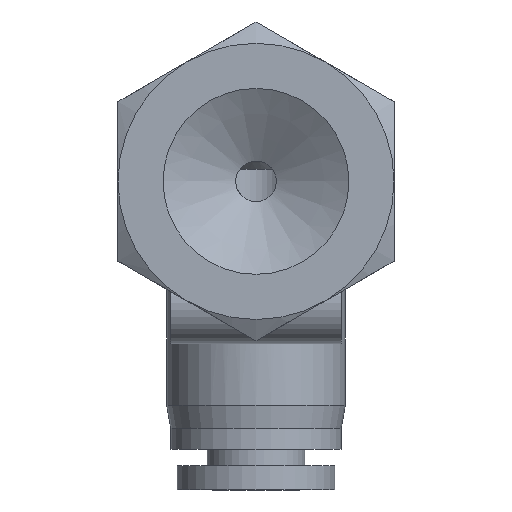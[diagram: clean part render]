
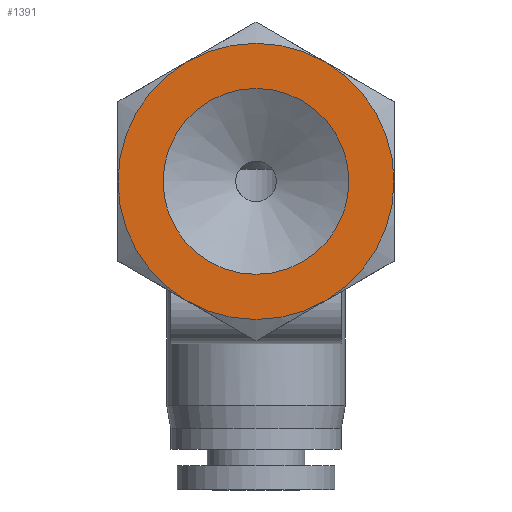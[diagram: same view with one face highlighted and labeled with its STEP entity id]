
A CAD part, front view. The second image highlights one B-rep face of the part: STEP entity #1391.
In plain terms, the highlighted planar face has unit normal (0, -1, 0).
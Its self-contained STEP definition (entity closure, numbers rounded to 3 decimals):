
#630=CARTESIAN_POINT('',(5.723,-26.6,0.));
#631=VERTEX_POINT('',#630);
#632=CARTESIAN_POINT('',(0.0,-26.6,0.));
#633=DIRECTION('',(0.0,1.0,0.0));
#634=DIRECTION('',(1.0,0.0,0.0));
#635=AXIS2_PLACEMENT_3D('',#632,#633,#634);
#636=CIRCLE('',#635,5.723);
#637=EDGE_CURVE('',#631,#631,#636,.T.);
#675=CARTESIAN_POINT('',(4.25,-26.6,7.361));
#676=VERTEX_POINT('',#675);
#759=CARTESIAN_POINT('',(4.25,-26.6,-7.361));
#760=VERTEX_POINT('',#759);
#834=CARTESIAN_POINT('',(8.5,-26.6,0.0));
#835=VERTEX_POINT('',#834);
#915=CARTESIAN_POINT('',(-4.25,-26.6,-7.361));
#916=VERTEX_POINT('',#915);
#990=CARTESIAN_POINT('',(-8.5,-26.6,0.));
#991=VERTEX_POINT('',#990);
#1063=CARTESIAN_POINT('',(-4.25,-26.6,7.361));
#1064=VERTEX_POINT('',#1063);
#1203=CARTESIAN_POINT('',(0.0,-26.6,0.0));
#1204=DIRECTION('',(0.0,-1.0,0.0));
#1205=DIRECTION('',(1.0,0.0,0.0));
#1206=AXIS2_PLACEMENT_3D('',#1203,#1204,#1205);
#1207=CIRCLE('',#1206,8.5);
#1208=EDGE_CURVE('',#835,#676,#1207,.T.);
#1220=CARTESIAN_POINT('',(0.0,-26.6,0.0));
#1221=DIRECTION('',(0.0,-1.0,0.0));
#1222=DIRECTION('',(1.0,0.0,0.0));
#1223=AXIS2_PLACEMENT_3D('',#1220,#1221,#1222);
#1224=CIRCLE('',#1223,8.5);
#1225=EDGE_CURVE('',#676,#1064,#1224,.T.);
#1237=CARTESIAN_POINT('',(0.0,-26.6,0.0));
#1238=DIRECTION('',(0.0,-1.0,0.0));
#1239=DIRECTION('',(1.0,0.0,0.0));
#1240=AXIS2_PLACEMENT_3D('',#1237,#1238,#1239);
#1241=CIRCLE('',#1240,8.5);
#1242=EDGE_CURVE('',#1064,#991,#1241,.T.);
#1255=CARTESIAN_POINT('',(0.0,-26.6,0.0));
#1256=DIRECTION('',(0.0,-1.0,0.0));
#1257=DIRECTION('',(1.0,0.0,0.0));
#1258=AXIS2_PLACEMENT_3D('',#1255,#1256,#1257);
#1259=CIRCLE('',#1258,8.5);
#1260=EDGE_CURVE('',#991,#916,#1259,.T.);
#1272=CARTESIAN_POINT('',(0.0,-26.6,0.0));
#1273=DIRECTION('',(0.0,-1.0,0.0));
#1274=DIRECTION('',(1.0,0.0,0.0));
#1275=AXIS2_PLACEMENT_3D('',#1272,#1273,#1274);
#1276=CIRCLE('',#1275,8.5);
#1277=EDGE_CURVE('',#916,#760,#1276,.T.);
#1289=CARTESIAN_POINT('',(0.0,-26.6,0.0));
#1290=DIRECTION('',(0.0,-1.0,0.0));
#1291=DIRECTION('',(1.0,0.0,0.0));
#1292=AXIS2_PLACEMENT_3D('',#1289,#1290,#1291);
#1293=CIRCLE('',#1292,8.5);
#1294=EDGE_CURVE('',#760,#835,#1293,.T.);
#1375=CARTESIAN_POINT('',(4.25,-26.6,0.0));
#1376=DIRECTION('',(0.0,-1.0,0.0));
#1377=DIRECTION('',(0.0,0.0,-1.0));
#1378=AXIS2_PLACEMENT_3D('',#1375,#1376,#1377);
#1379=PLANE('',#1378);
#1380=ORIENTED_EDGE('',*,*,#1208,.T.);
#1381=ORIENTED_EDGE('',*,*,#1225,.T.);
#1382=ORIENTED_EDGE('',*,*,#1242,.T.);
#1383=ORIENTED_EDGE('',*,*,#1260,.T.);
#1384=ORIENTED_EDGE('',*,*,#1277,.T.);
#1385=ORIENTED_EDGE('',*,*,#1294,.T.);
#1386=EDGE_LOOP('',(#1380,#1381,#1382,#1383,#1384,#1385));
#1387=FACE_OUTER_BOUND('',#1386,.T.);
#1388=ORIENTED_EDGE('',*,*,#637,.T.);
#1389=EDGE_LOOP('',(#1388));
#1390=FACE_BOUND('',#1389,.T.);
#1391=ADVANCED_FACE('',(#1387,#1390),#1379,.T.);
